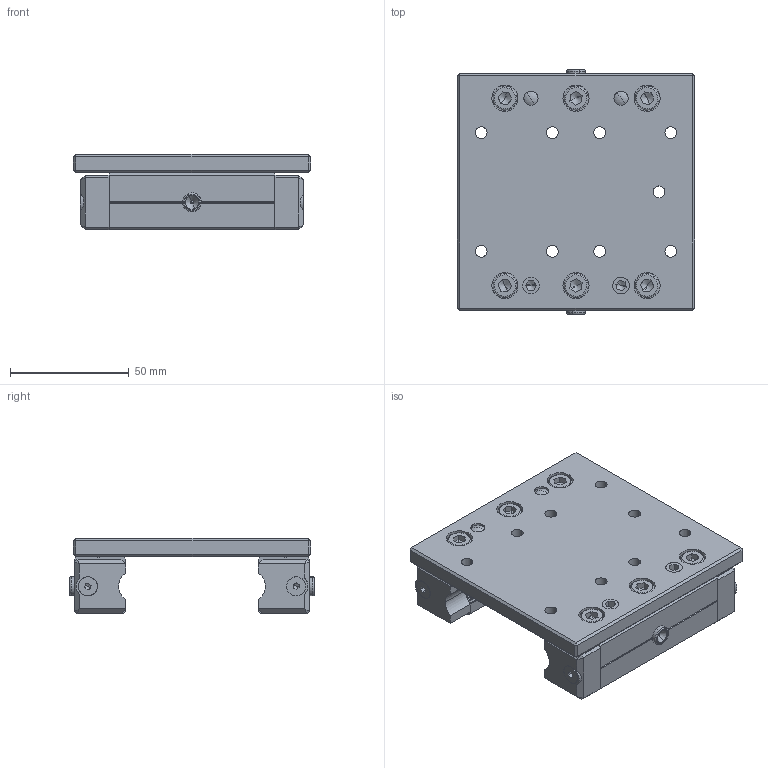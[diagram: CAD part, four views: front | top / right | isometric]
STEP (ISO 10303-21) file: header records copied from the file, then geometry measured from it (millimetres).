
FILE_DESCRIPTION (( 'STEP AP203' ), '1' );
FILE_NAME ('Wellenschlitten 7 und 8_-_WS7 70mm.step', '2005-06-07T09:33:50', ( ' ' ), ( ' ' ), 'SwSTEP 2.0', 'SolidWorks 2005143', '' );
FILE_SCHEMA (( 'CONFIG_CONTROL_DESIGN' ));
Length unit declared in the file: millimetre
Products named in the file (10): EZ3022 Wellenschlittenprofil 7 für Wellenschlitten WS7 und WS8_EZ3023 Wellenschlittenprofil 7 für Wellenschlitten 70mm WS7 und WS8 - Einstellseite; EZ3022 Wellenschlittenprofil 7 für Wellenschlitten WS7 und WS8_EZ3022 Wellenschlittenprofil 7 für Wellenschlitten 70mm WS7 und WS8 - Anschlagseite; Wellenschlitten 7 und 8_-_WS7 70mm; TE2770-4 Gewindestift M8x0.75 mit 60 Spitze_Standard; DIN6325 Zylindersift m6_Zylinderstift DIN 6325 d6x 18; DIN 7991_Senkschraube DIN 7991, M 4 x 8; DIN 6912_Zylinderschraube DIN 6912 8.8 M 6 x 10; TE1499 Umlenkteil mit Abdeckung Linearschlittenprofil (einseitig) Wellenschlitten7_Standard; Schmiernippel_Standard; EZ3024 Lagerplatte WS7- WS8_EZ3024 Lagerplatte für Wellenschlitten WS7 L70mm
Assembly tree (23 placements, depth 2):
  Wellenschlitten 7 und 8_-_WS7 70mm
    TE2770-4 Gewindestift M8x0.75 mit 60 Spitze_Standard  x2
    DIN 7991_Senkschraube DIN 7991, M 4 x 8  x4
    DIN 6912_Zylinderschraube DIN 6912 8.8 M 6 x 10  x6
    EZ3022 Wellenschlittenprofil 7 für Wellenschlitten WS7 und WS8_EZ3022 Wellenschlittenprofil 7 für Wellenschlitten 70mm WS7 und WS8 - Anschlagseite
    TE1499 Umlenkteil mit Abdeckung Linearschlittenprofil (einseitig) Wellenschlitten7_Standard  x4
    EZ3024 Lagerplatte WS7- WS8_EZ3024 Lagerplatte für Wellenschlitten WS7 L70mm
    DIN6325 Zylindersift m6_Zylinderstift DIN 6325 d6x 18  x2
    Schmiernippel_Standard  x2
    EZ3022 Wellenschlittenprofil 7 für Wellenschlitten WS7 und WS8_EZ3023 Wellenschlittenprofil 7 für Wellenschlitten 70mm WS7 und WS8 - Einstellseite
Bounding box: 100 x 103 x 31.7 mm (x, y, z)
Volume: 145873.2 mm3; surface area: 67093.3 mm2
Topology: 23 solids, 23 shells, 822 faces, 2108 edges, 1300 vertices
Faces by surface type: cylinder 342, plane 324, cone 104, torus 40, sphere 12
Entity records: 19618 total; most frequent: CARTESIAN_POINT 4423, ORIENTED_EDGE 2976, DIRECTION 2847, EDGE_CURVE 1488, AXIS2_PLACEMENT_3D 1057, VERTEX_POINT 949, VECTOR 733, LINE 733
